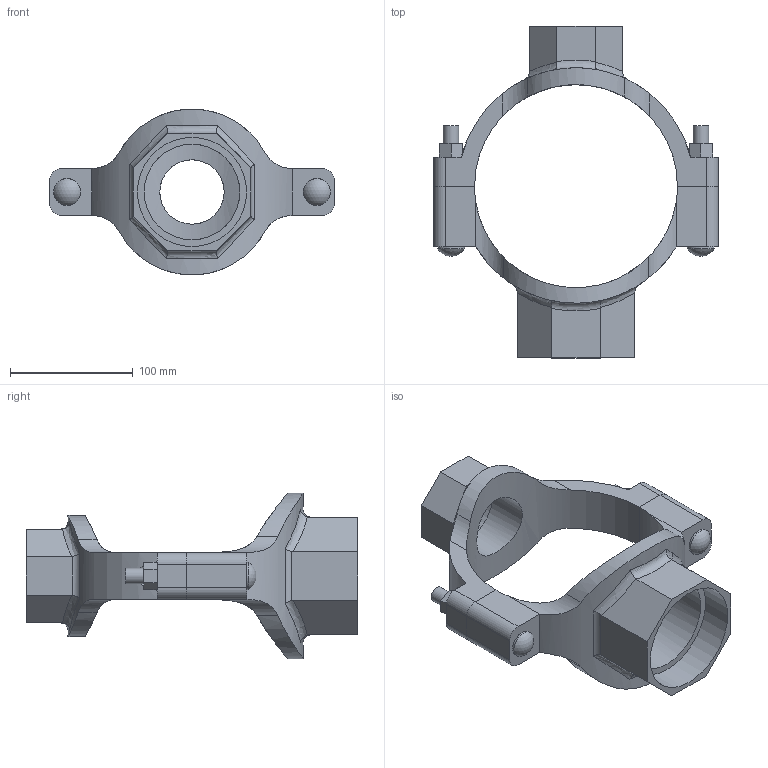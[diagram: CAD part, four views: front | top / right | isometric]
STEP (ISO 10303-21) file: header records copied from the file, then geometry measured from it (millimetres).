
FILE_DESCRIPTION(/* description */ ('VIC MECH-T BRANCH OUTLET CROSS STYLE 920N (THD)','CAx-IF Rec.Pracs.---Representation and Presentation of Product Manufacturing Information (PMI)---4.0---2014-10-13'),/* implementation_level */ '2;1');
FILE_NAME(/* name */ 'C:\Users\Vjadhav\AppData\Roaming\Autodesk\ApplicationPlugins\Back Up\Victaulic_IPS_Mechanical-Cross Outlet_Style 920N (FPT)\Victaulic_IPS_Mechanical-Cross Outlet_06.0 (165.1)x02.0x03.0 (150x50x80).stp',/* time_stamp */ '2020-08-06T19:00:15+06:00',/* author */ ('Vjadhav'),/* organization */ ('Victaulic'),/* preprocessor_version */ 'ST-DEVELOPER v17.2',/* originating_system */ 'Autodesk Inventor 2019',/* authorisation */ '');
FILE_SCHEMA (('AP242_MANAGED_MODEL_BASED_3D_ENGINEERING_MIM_LF { 1 0 10303 442 1 1 4 }'));
Length unit declared in the file: inch
Products named in the file (3): 920NT-06.0 (165.1)x02.0x03.0; 920NT-06.0 (165.1)x02.0x02.5 (76.1); 920T-06.0 (165.1)x03.0
Assembly tree (2 placements, depth 2):
  920NT-06.0 (165.1)x02.0x03.0
    920NT-06.0 (165.1)x02.0x02.5 (76.1)
    920T-06.0 (165.1)x03.0
Bounding box: 231.9 x 270 x 134.87 mm (x, y, z)
Volume: 687666.1 mm3; surface area: 155907.3 mm2
Topology: 2 solids, 2 shells, 130 faces, 344 edges, 232 vertices
Faces by surface type: plane 68, cylinder 48, bspline 8, torus 4, sphere 2
Full cylindrical faces by diameter (mm): 12.7 x4, 21.982 x2, 52.387 x1, 60.325 x1, 77.787 x1, 88.9 x1
Entity records: 5218 total; most frequent: CARTESIAN_POINT 1759, ORIENTED_EDGE 688, DIRECTION 638, EDGE_CURVE 344, VERTEX_POINT 232, AXIS2_PLACEMENT_3D 227, LINE 184, VECTOR 184
